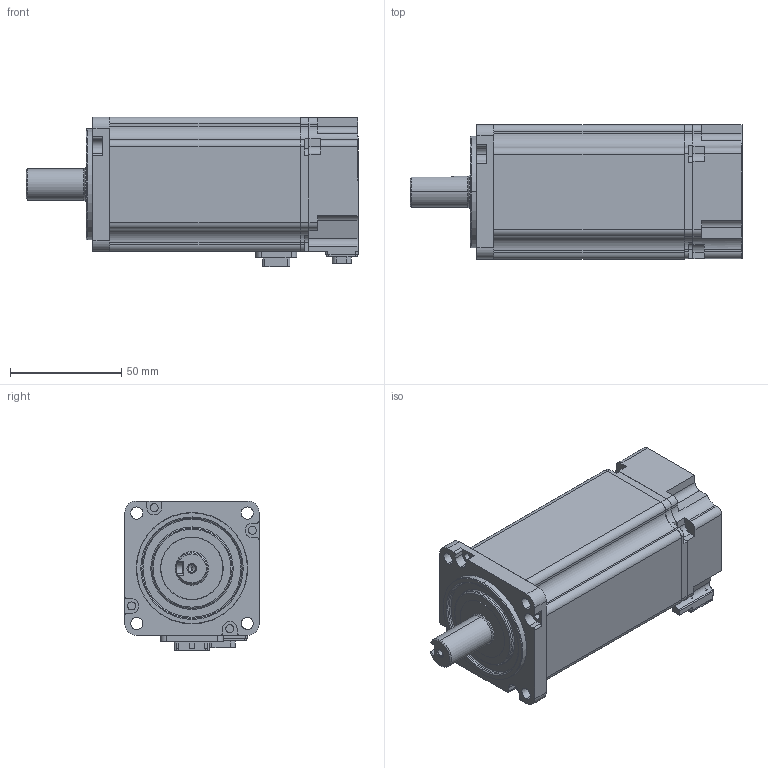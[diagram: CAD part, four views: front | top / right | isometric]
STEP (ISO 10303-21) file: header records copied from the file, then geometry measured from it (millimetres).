
FILE_DESCRIPTION (( 'STEP AP203' ), '1' );
FILE_NAME ('60A1ST-01930.STEP', '2025-03-18T12:22:27', ( '' ), ( '' ), 'SwSTEP 2.0', 'SolidWorks 2020', '' );
FILE_SCHEMA (( 'CONFIG_CONTROL_DESIGN' ));
Length unit declared in the file: millimetre
Products named in the file (9): 蚐猾; 600W儂褲; 三竹排插动力线; ヶ裔; 梓饜綴裔; 誘欶-砬芞; 三竹排插编码器; 60A1ST-01930; 200w蛌粣 
Assembly tree (8 placements, depth 2):
  60A1ST-01930
    200w蛌粣 
    梓饜綴裔
    三竹排插编码器
    三竹排插动力线
    蚐猾
    ヶ裔
    600W儂褲
    誘欶-砬芞
Bounding box: 149 x 60.2 x 67.2 mm (x, y, z)
Volume: 362144 mm3; surface area: 77743 mm2
Topology: 8 solids, 8 shells, 638 faces, 1632 edges, 1050 vertices
Faces by surface type: plane 286, cylinder 277, cone 57, torus 18
Entity records: 20441 total; most frequent: DIRECTION 3524, CARTESIAN_POINT 3408, ORIENTED_EDGE 3212, EDGE_CURVE 1606, AXIS2_PLACEMENT_3D 1284, VERTEX_POINT 1050, VECTOR 956, LINE 956
